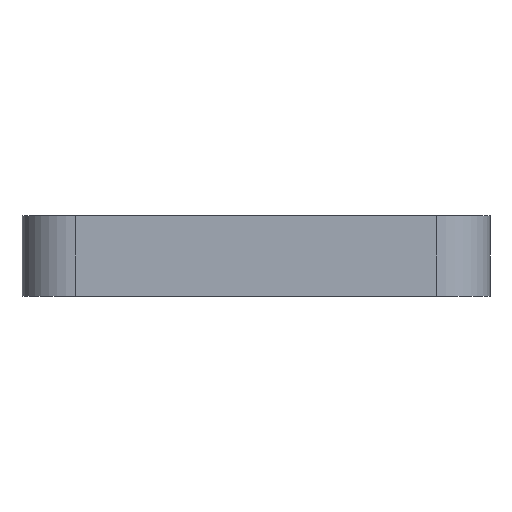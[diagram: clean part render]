
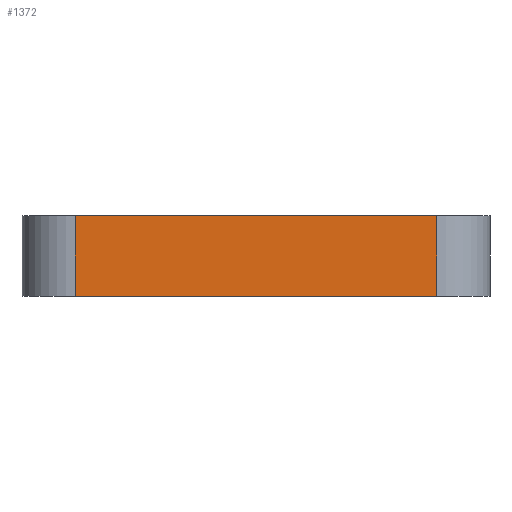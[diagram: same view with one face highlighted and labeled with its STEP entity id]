
A CAD part, front view. The second image highlights one B-rep face of the part: STEP entity #1372.
In plain terms, the highlighted planar face has unit normal (0, -1, 0).
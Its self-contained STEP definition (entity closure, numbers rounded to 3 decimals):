
#44 = PLANE('',#45);
#45 = AXIS2_PLACEMENT_3D('',#46,#47,#48);
#46 = CARTESIAN_POINT('',(0.,0.,24.));
#47 = DIRECTION('',(0.,0.,1.));
#48 = DIRECTION('',(1.,0.,0.));
#72 = CYLINDRICAL_SURFACE('',#73,16.);
#73 = AXIS2_PLACEMENT_3D('',#74,#75,#76);
#74 = CARTESIAN_POINT('',(16.,16.,0.));
#75 = DIRECTION('',(0.,0.,1.));
#76 = DIRECTION('',(-1.,-0.,0.));
#100 = PLANE('',#101);
#101 = AXIS2_PLACEMENT_3D('',#102,#103,#104);
#102 = CARTESIAN_POINT('',(0.,0.,0.));
#103 = DIRECTION('',(0.,0.,1.));
#104 = DIRECTION('',(1.,0.,0.));
#143 = VERTEX_POINT('',#144);
#144 = CARTESIAN_POINT('',(16.,0.,24.));
#166 = EDGE_CURVE('',#143,#167,#169,.T.);
#167 = VERTEX_POINT('',#168);
#168 = CARTESIAN_POINT('',(124.,0.,24.));
#169 = SURFACE_CURVE('',#170,(#174,#181),.PCURVE_S1.);
#170 = LINE('',#171,#172);
#171 = CARTESIAN_POINT('',(0.,0.,24.));
#172 = VECTOR('',#173,1.);
#173 = DIRECTION('',(1.,0.,0.));
#174 = PCURVE('',#44,#175);
#175 = DEFINITIONAL_REPRESENTATION('',(#176),#180);
#176 = LINE('',#177,#178);
#177 = CARTESIAN_POINT('',(0.,0.));
#178 = VECTOR('',#179,1.);
#179 = DIRECTION('',(1.,0.));
#180 = ( GEOMETRIC_REPRESENTATION_CONTEXT(2) 
PARAMETRIC_REPRESENTATION_CONTEXT() REPRESENTATION_CONTEXT('2D SPACE',''
  ) );
#181 = PCURVE('',#182,#187);
#182 = PLANE('',#183);
#183 = AXIS2_PLACEMENT_3D('',#184,#185,#186);
#184 = CARTESIAN_POINT('',(0.,0.,0.));
#185 = DIRECTION('',(0.,1.,0.));
#186 = DIRECTION('',(0.,0.,1.));
#187 = DEFINITIONAL_REPRESENTATION('',(#188),#192);
#188 = LINE('',#189,#190);
#189 = CARTESIAN_POINT('',(24.,0.));
#190 = VECTOR('',#191,1.);
#191 = DIRECTION('',(0.,1.));
#192 = ( GEOMETRIC_REPRESENTATION_CONTEXT(2) 
PARAMETRIC_REPRESENTATION_CONTEXT() REPRESENTATION_CONTEXT('2D SPACE',''
  ) );
#215 = CYLINDRICAL_SURFACE('',#216,16.);
#216 = AXIS2_PLACEMENT_3D('',#217,#218,#219);
#217 = CARTESIAN_POINT('',(124.,16.,0.));
#218 = DIRECTION('',(0.,0.,1.));
#219 = DIRECTION('',(1.,0.,-0.));
#1148 = VERTEX_POINT('',#1149);
#1149 = CARTESIAN_POINT('',(16.,0.,0.));
#1171 = EDGE_CURVE('',#1148,#143,#1172,.T.);
#1172 = SURFACE_CURVE('',#1173,(#1177,#1184),.PCURVE_S1.);
#1173 = LINE('',#1174,#1175);
#1174 = CARTESIAN_POINT('',(16.,0.,0.));
#1175 = VECTOR('',#1176,1.);
#1176 = DIRECTION('',(0.,0.,1.));
#1177 = PCURVE('',#72,#1178);
#1178 = DEFINITIONAL_REPRESENTATION('',(#1179),#1183);
#1179 = LINE('',#1180,#1181);
#1180 = CARTESIAN_POINT('',(1.571,0.));
#1181 = VECTOR('',#1182,1.);
#1182 = DIRECTION('',(0.,1.));
#1183 = ( GEOMETRIC_REPRESENTATION_CONTEXT(2) 
PARAMETRIC_REPRESENTATION_CONTEXT() REPRESENTATION_CONTEXT('2D SPACE',''
  ) );
#1184 = PCURVE('',#182,#1185);
#1185 = DEFINITIONAL_REPRESENTATION('',(#1186),#1190);
#1186 = LINE('',#1187,#1188);
#1187 = CARTESIAN_POINT('',(0.,16.));
#1188 = VECTOR('',#1189,1.);
#1189 = DIRECTION('',(1.,0.));
#1190 = ( GEOMETRIC_REPRESENTATION_CONTEXT(2) 
PARAMETRIC_REPRESENTATION_CONTEXT() REPRESENTATION_CONTEXT('2D SPACE',''
  ) );
#1253 = EDGE_CURVE('',#1148,#1254,#1256,.T.);
#1254 = VERTEX_POINT('',#1255);
#1255 = CARTESIAN_POINT('',(124.,0.,0.));
#1256 = SURFACE_CURVE('',#1257,(#1261,#1268),.PCURVE_S1.);
#1257 = LINE('',#1258,#1259);
#1258 = CARTESIAN_POINT('',(0.,0.,0.));
#1259 = VECTOR('',#1260,1.);
#1260 = DIRECTION('',(1.,0.,0.));
#1261 = PCURVE('',#100,#1262);
#1262 = DEFINITIONAL_REPRESENTATION('',(#1263),#1267);
#1263 = LINE('',#1264,#1265);
#1264 = CARTESIAN_POINT('',(0.,0.));
#1265 = VECTOR('',#1266,1.);
#1266 = DIRECTION('',(1.,0.));
#1267 = ( GEOMETRIC_REPRESENTATION_CONTEXT(2) 
PARAMETRIC_REPRESENTATION_CONTEXT() REPRESENTATION_CONTEXT('2D SPACE',''
  ) );
#1268 = PCURVE('',#182,#1269);
#1269 = DEFINITIONAL_REPRESENTATION('',(#1270),#1274);
#1270 = LINE('',#1271,#1272);
#1271 = CARTESIAN_POINT('',(0.,0.));
#1272 = VECTOR('',#1273,1.);
#1273 = DIRECTION('',(0.,1.));
#1274 = ( GEOMETRIC_REPRESENTATION_CONTEXT(2) 
PARAMETRIC_REPRESENTATION_CONTEXT() REPRESENTATION_CONTEXT('2D SPACE',''
  ) );
#1372 = ADVANCED_FACE('',(#1373),#182,.F.);
#1373 = FACE_BOUND('',#1374,.F.);
#1374 = EDGE_LOOP('',(#1375,#1376,#1377,#1378));
#1375 = ORIENTED_EDGE('',*,*,#1253,.F.);
#1376 = ORIENTED_EDGE('',*,*,#1171,.T.);
#1377 = ORIENTED_EDGE('',*,*,#166,.T.);
#1378 = ORIENTED_EDGE('',*,*,#1379,.F.);
#1379 = EDGE_CURVE('',#1254,#167,#1380,.T.);
#1380 = SURFACE_CURVE('',#1381,(#1385,#1392),.PCURVE_S1.);
#1381 = LINE('',#1382,#1383);
#1382 = CARTESIAN_POINT('',(124.,0.,0.));
#1383 = VECTOR('',#1384,1.);
#1384 = DIRECTION('',(0.,0.,1.));
#1385 = PCURVE('',#182,#1386);
#1386 = DEFINITIONAL_REPRESENTATION('',(#1387),#1391);
#1387 = LINE('',#1388,#1389);
#1388 = CARTESIAN_POINT('',(0.,124.));
#1389 = VECTOR('',#1390,1.);
#1390 = DIRECTION('',(1.,0.));
#1391 = ( GEOMETRIC_REPRESENTATION_CONTEXT(2) 
PARAMETRIC_REPRESENTATION_CONTEXT() REPRESENTATION_CONTEXT('2D SPACE',''
  ) );
#1392 = PCURVE('',#215,#1393);
#1393 = DEFINITIONAL_REPRESENTATION('',(#1394),#1398);
#1394 = LINE('',#1395,#1396);
#1395 = CARTESIAN_POINT('',(-1.571,0.));
#1396 = VECTOR('',#1397,1.);
#1397 = DIRECTION('',(-0.,1.));
#1398 = ( GEOMETRIC_REPRESENTATION_CONTEXT(2) 
PARAMETRIC_REPRESENTATION_CONTEXT() REPRESENTATION_CONTEXT('2D SPACE',''
  ) );
